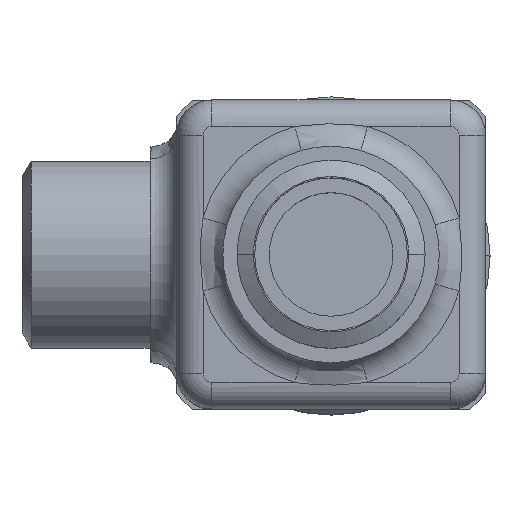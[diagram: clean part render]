
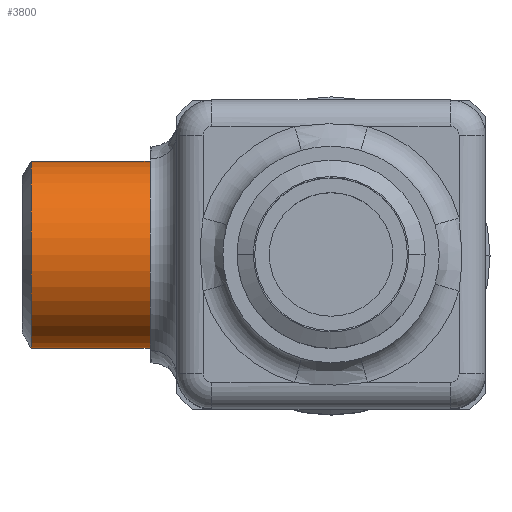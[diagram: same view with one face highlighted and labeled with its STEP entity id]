
A CAD part, top view. The second image highlights one B-rep face of the part: STEP entity #3800.
In plain terms, the highlighted cylindrical face has radius 10.6 mm (diameter 21.2 mm), a partial arc.
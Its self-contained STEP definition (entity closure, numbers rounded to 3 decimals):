
#1785 = LINE ( 'NONE', #1786, #1787 ) ;
#1786 = CARTESIAN_POINT ( 'NONE',  ( -20.5, -10.6, 14.5 ) ) ;
#1787 = VECTOR ( 'NONE', #1788, 1000. ) ;
#1788 = DIRECTION ( 'NONE',  ( -1., 0., 0. ) ) ;
#2489 = EDGE_CURVE ( 'NONE', #9594, #7874, #7533, .T. ) ;
#2843 = ORIENTED_EDGE ( 'NONE', *, *, #2489, .T. ) ;
#3502 = EDGE_CURVE ( 'NONE', #3716, #4111, #1785, .T. ) ;
#3509 = EDGE_LOOP ( 'NONE', ( #3734, #2843, #3854, #7614 ) ) ;
#3716 = VERTEX_POINT ( 'NONE', #7270 ) ;
#3727 = EDGE_CURVE ( 'NONE', #3716, #9594, #7424, .T. ) ;
#3734 = ORIENTED_EDGE ( 'NONE', *, *, #3727, .T. ) ;
#3800 = ADVANCED_FACE ( 'NONE', ( #8179 ), #8180, .T. ) ;
#3854 = ORIENTED_EDGE ( 'NONE', *, *, #4138, .T. ) ;
#4111 = VERTEX_POINT ( 'NONE', #6510 ) ;
#4138 = EDGE_CURVE ( 'NONE', #7874, #4111, #7217, .T. ) ;
#6510 = CARTESIAN_POINT ( 'NONE',  ( -33.961, -10.6, 14.5 ) ) ;
#7043 = CARTESIAN_POINT ( 'NONE',  ( -33.961, 10.6, 14.5 ) ) ;
#7217 = CIRCLE ( 'NONE', #7218, 10.6 ) ;
#7218 = AXIS2_PLACEMENT_3D ( 'NONE', #7219, #7220, #7224 ) ;
#7219 = CARTESIAN_POINT ( 'NONE',  ( -33.961, 0., 14.5 ) ) ;
#7220 = DIRECTION ( 'NONE',  ( 1., 0., 0. ) ) ;
#7224 = DIRECTION ( 'NONE',  ( 0., 1., 0. ) ) ;
#7270 = CARTESIAN_POINT ( 'NONE',  ( -20.5, -10.6, 14.5 ) ) ;
#7424 = CIRCLE ( 'NONE', #7425, 10.6 ) ;
#7425 = AXIS2_PLACEMENT_3D ( 'NONE', #7426, #7427, #7428 ) ;
#7426 = CARTESIAN_POINT ( 'NONE',  ( -20.5, 0., 14.5 ) ) ;
#7427 = DIRECTION ( 'NONE',  ( -1., 0., 0. ) ) ;
#7428 = DIRECTION ( 'NONE',  ( 0., -1., 0. ) ) ;
#7533 = LINE ( 'NONE', #7534, #7535 ) ;
#7534 = CARTESIAN_POINT ( 'NONE',  ( -20.5, 10.6, 14.5 ) ) ;
#7535 = VECTOR ( 'NONE', #7536, 1000. ) ;
#7536 = DIRECTION ( 'NONE',  ( -1., 0., 0. ) ) ;
#7614 = ORIENTED_EDGE ( 'NONE', *, *, #3502, .F. ) ;
#7874 = VERTEX_POINT ( 'NONE', #7043 ) ;
#8179 = FACE_OUTER_BOUND ( 'NONE', #3509, .T. ) ;
#8180 = CYLINDRICAL_SURFACE ( 'NONE', #8181, 10.6 ) ;
#8181 = AXIS2_PLACEMENT_3D ( 'NONE', #8184, #8185, #8186 ) ;
#8184 = CARTESIAN_POINT ( 'NONE',  ( -20.5, 0., 14.5 ) ) ;
#8185 = DIRECTION ( 'NONE',  ( -1., 0., 0. ) ) ;
#8186 = DIRECTION ( 'NONE',  ( 0., -1., 0. ) ) ;
#8953 = CARTESIAN_POINT ( 'NONE',  ( -20.5, 10.6, 14.5 ) ) ;
#9594 = VERTEX_POINT ( 'NONE', #8953 ) ;
